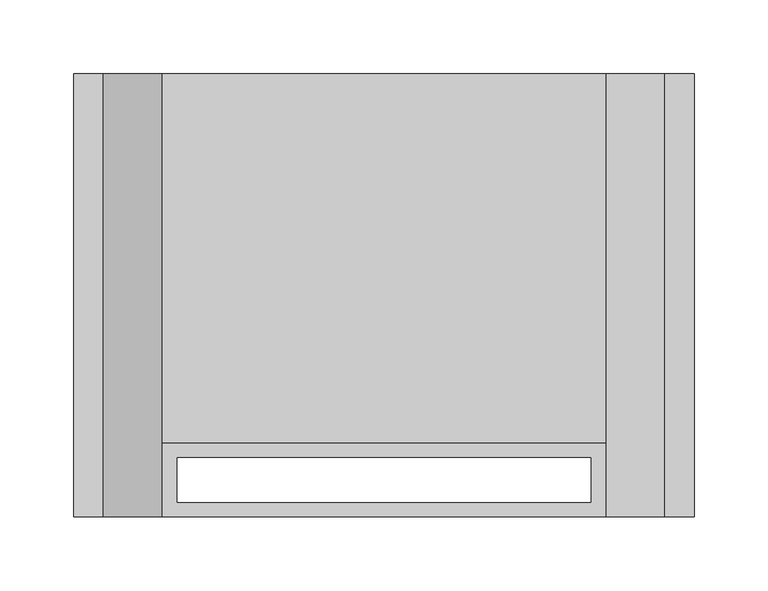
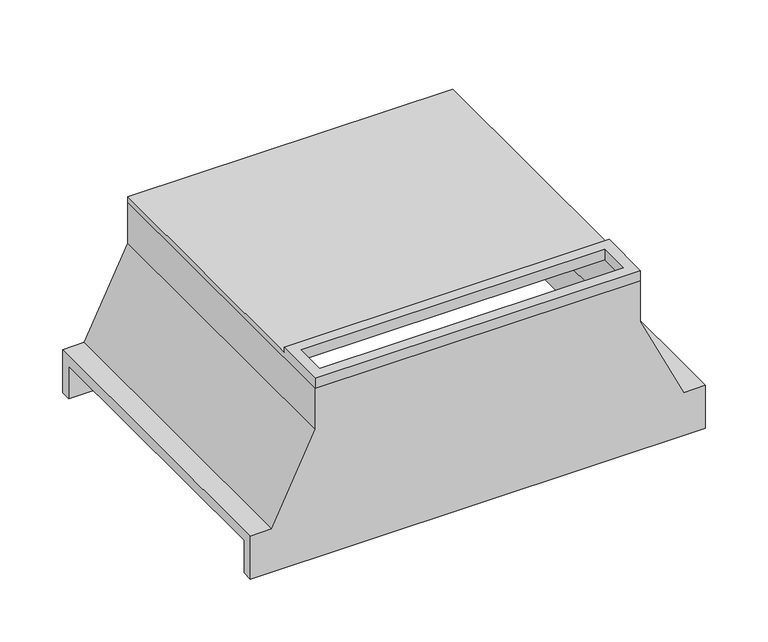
"""IFC4 building model written with IfcOpenShell, lengths in millimetres: cable carrier fitting geometry, BAKS_Universal tee : TRUNJ_H42."""

from ifc_helpers import new_model, si_unit, origin, place, context, project, spatial, faceted_brep, source, transform, mapped, element, save


def cable_carrier_fitting_3ff81d9b(model_context):
    return source(origin(), model_context, "Body", "Brep", [
        faceted_brep([(150.0, 150.0, 149.0), (-150.0, 150.0, 149.0), (-150.0, -100.0, 149.0), (150.0, -100.0, 149.0), (150.0, 150.0, 144.0), (150.0, -150.0, 144.0), (-150.0, -150.0, 144.0), (-150.0, 150.0, 144.0), (140.0, -110.0, 144.0), (-140.0, -110.0, 144.0), (-140.0, -140.0, 144.0), (140.0, -140.0, 144.0), (-150.0, -150.0, 154.0), (-150.0, -100.0, 154.0), (150.0, -150.0, 154.0), (150.0, -100.0, 154.0), (-140.0, -110.0, 154.0), (140.0, -110.0, 154.0), (140.0, -140.0, 154.0), (-140.0, -140.0, 154.0)], [[[0, 1, 2, 3]], [[4, 5, 6, 7], [8, 9, 10, 11]], [[1, 0, 4, 7]], [[7, 6, 12, 13, 2, 1]], [[6, 5, 14, 12]], [[5, 4, 0, 3, 15, 14]], [[15, 13, 12, 14], [16, 17, 18, 19]], [[13, 15, 3, 2]], [[16, 9, 8, 17]], [[9, 16, 19, 10]], [[10, 19, 18, 11]], [[17, 8, 11, 18]]]),
        faceted_brep([(-210.0, -150.0, 21.0), (-210.0, -150.0, -21.0), (210.0, -150.0, -21.0), (210.0, -150.0, 21.0), (190.0, -150.0, 21.0), (150.0, -150.0, 104.0), (150.0, -150.0, 144.0), (-150.0, -150.0, 144.0), (-150.0, -150.0, 104.0), (-190.0, -150.0, 21.0), (-210.0, 150.0, 21.0), (-190.0, 150.0, 21.0), (-150.0, 150.0, 104.0), (-150.0, 150.0, 144.0), (150.0, 150.0, 144.0), (150.0, 150.0, 104.0), (190.0, 150.0, 21.0), (210.0, 150.0, 21.0), (210.0, 150.0, -21.0), (-210.0, 150.0, -21.0), (-210.0, 140.0, -21.0), (-210.0, 140.0, 11.0), (-210.0, -140.0, 11.0), (-210.0, -140.0, -21.0), (210.0, -140.0, -21.0), (210.0, 140.0, -21.0), (210.0, -140.0, 11.0), (210.0, 140.0, 11.0), (-140.0, 140.0, 144.0), (140.0, 140.0, 144.0), (140.0, -140.0, 144.0), (-140.0, -140.0, 144.0), (180.0, 140.0, 11.0), (140.0, 140.0, 104.0), (-140.0, 140.0, 104.0), (-180.0, 140.0, 11.0), (-140.0, -140.0, 104.0), (-180.0, -140.0, 11.0), (140.0, -140.0, 104.0), (180.0, -140.0, 11.0)], [[[0, 1, 2, 3, 4, 5, 6, 7, 8, 9]], [[10, 11, 12, 13, 14, 15, 16, 17, 18, 19]], [[1, 0, 10, 19, 20, 21, 22, 23]], [[2, 1, 23, 24]], [[19, 18, 25, 20]], [[3, 2, 24, 26, 27, 25, 18, 17]], [[4, 3, 17, 16]], [[5, 4, 16, 15]], [[6, 5, 15, 14]], [[7, 6, 14, 13], [28, 29, 30, 31]], [[8, 7, 13, 12]], [[9, 8, 12, 11]], [[0, 9, 11, 10]], [[32, 33, 29, 28, 34, 35, 21, 20, 25, 27]], [[35, 34, 36, 37]], [[37, 36, 31, 30, 38, 39, 26, 24, 23, 22]], [[33, 32, 39, 38]], [[34, 28, 31, 36]], [[29, 33, 38, 30]], [[21, 35, 37, 22]], [[32, 27, 26, 39]]]),
    ])


if __name__ == "__main__":
    model = new_model("IFC4")
    model_context = context("Model", 3, world=origin())
    ifc_project = project(units=[si_unit("LENGTHUNIT", "METRE", prefix="MILLI")], contexts=[model_context])
    site = spatial("IfcSite", under=ifc_project)
    building = spatial("IfcBuilding", under=site)
    placement = place(None, origin())
    cable_carrier_fitting_shape = cable_carrier_fitting_3ff81d9b(model_context)
    element("IfcCableCarrierFitting", 1, ObjectType="BAKS_Universal tee : TRUNJ_H42", at=placement, inside=building, context=model_context, shape_type="MappedRepresentation", body=[
        mapped(cable_carrier_fitting_shape, transform((0.0, 0.0, 0.0), x_axis=(1.0, 0.0, 0.0), y_axis=(0.0, 1.0, 0.0), z_axis=(0.0, 0.0, 1.0))),
    ])
    save(model, "model.ifc")
